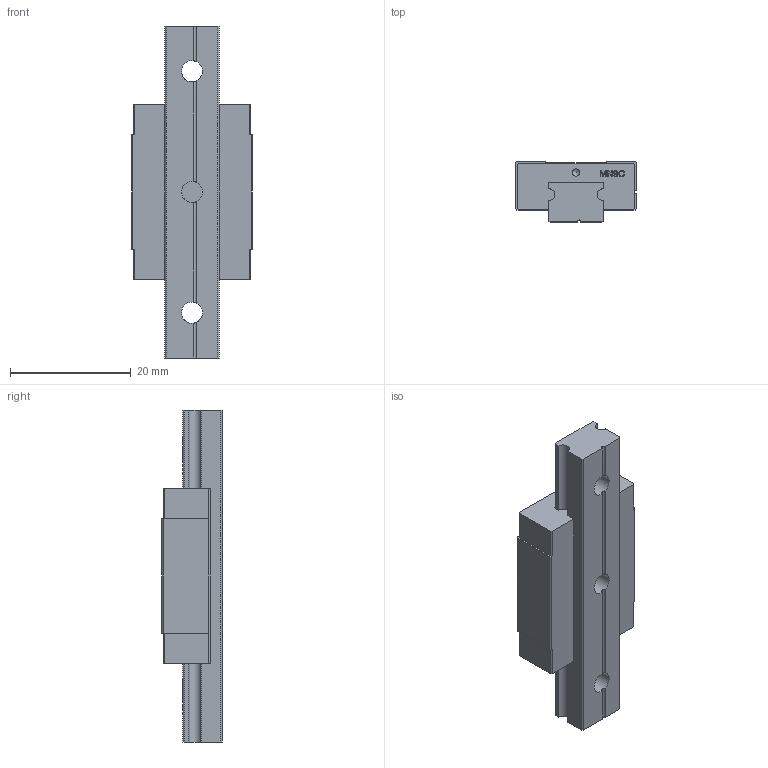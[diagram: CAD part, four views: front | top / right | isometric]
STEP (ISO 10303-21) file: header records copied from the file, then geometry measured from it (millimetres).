
FILE_DESCRIPTION(/* description */ (''),/* implementation_level */ '2;1');
FILE_NAME(/* name */ 'MGN9C.stp',/* time_stamp */ '2021-05-18T23:26:33+08:00',/* author */ (''),/* organization */ (''),/* preprocessor_version */ 'ST-DEVELOPER v15',/* originating_system */ 'SIEMENS PLM Software NX 8.5',/* authorisation */ '');
FILE_SCHEMA (('CONFIG_CONTROL_DESIGN'));
Length unit declared in the file: millimetre
Products named in the file (1): _model3
Bounding box: 20 x 10 x 55 mm (x, y, z)
Volume: 5950.6 mm3; surface area: 4494.1 mm2
Topology: 2 solids, 2 shells, 137 faces, 376 edges, 248 vertices
Faces by surface type: plane 85, extrusion 25, cylinder 21, cone 6
Full cylindrical faces by diameter (mm): 1.2 x2, 3 x4, 3.5 x3, 6 x3
Entity records: 4739 total; most frequent: CARTESIAN_POINT 1449, ORIENTED_EDGE 698, DIRECTION 535, EDGE_CURVE 349, VERTEX_POINT 245, VECTOR 227, LINE 202, EDGE_LOOP 166
